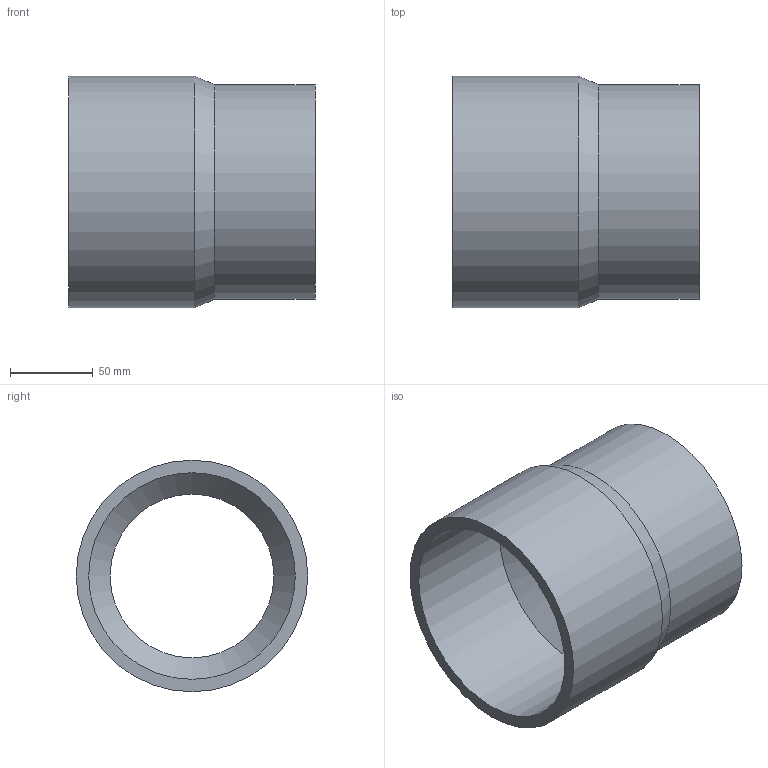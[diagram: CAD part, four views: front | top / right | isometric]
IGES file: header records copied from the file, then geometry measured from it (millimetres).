
Global section: file name: 050200140110.ipt; native system: Autodesk Inventor 2015; preprocessor: unknown; author: KIM; date: 20171207.164237; units: millimetre
Bounding box: 149 x 140 x 140 mm (x, y, z)
Volume: 550143.7 mm3; surface area: 129061.6 mm2
Topology: 1 solids, 1 shells, 10 faces, 23 edges, 16 vertices
Faces by surface type: revolution 4, plane 3, cylinder 2, cone 1
Full cylindrical faces by diameter (mm): 130 x1, 140 x1
